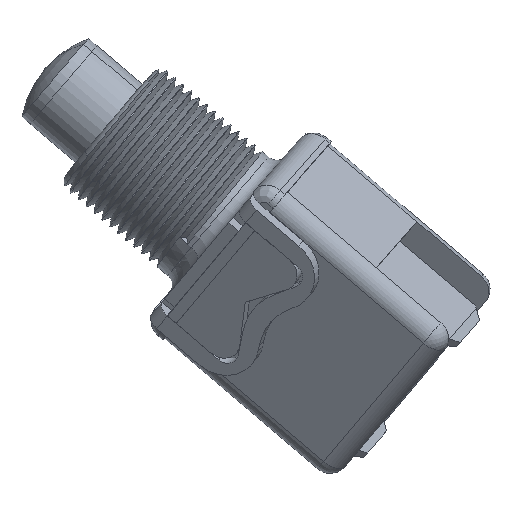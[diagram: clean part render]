
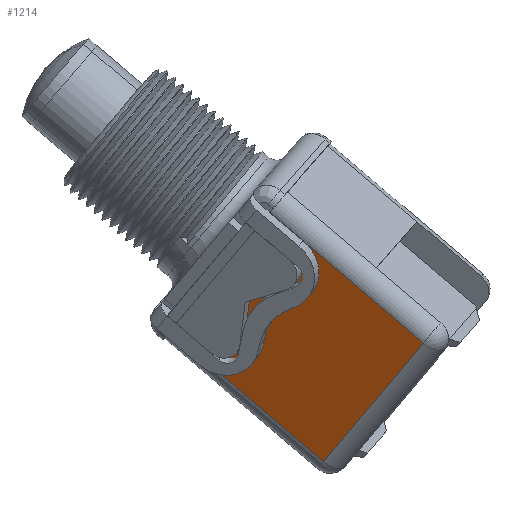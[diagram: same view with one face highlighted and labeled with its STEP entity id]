
A CAD part, top view. The second image highlights one B-rep face of the part: STEP entity #1214.
In plain terms, the highlighted planar face has unit normal (-0.346, -0.397, 0.85).
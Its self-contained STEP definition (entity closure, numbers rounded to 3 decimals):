
#355=DIRECTION('',(0.761,-0.648,0.007));
#356=VECTOR('',#355,15.5);
#357=CARTESIAN_POINT('',(-3.637,-10.102,
-1.162));
#358=LINE('',#357,#356);
#367=DIRECTION('',(0.548,0.65,0.527));
#368=VECTOR('',#367,1.5);
#369=CARTESIAN_POINT('',(-3.637,-10.102,
-1.162));
#370=LINE('',#369,#368);
#371=CARTESIAN_POINT('',(0.672,-10.421,
0.444));
#372=DIRECTION('',(-0.346,-0.397,0.85));
#373=DIRECTION('',(-0.548,-0.65,-0.527));
#374=AXIS2_PLACEMENT_3D('',#371,#372,#373);
#376=DIRECTION('',(0.111,0.882,0.457));
#377=VECTOR('',#376,3.742);
#378=CARTESIAN_POINT('',(2.07,-10.799,0.836));
#379=LINE('',#378,#377);
#380=DIRECTION('',(0.848,0.255,0.464));
#381=VECTOR('',#380,3.742);
#382=CARTESIAN_POINT('',(2.484,-7.498,2.547));
#383=LINE('',#382,#381);
#384=CARTESIAN_POINT('',(5.057,-5.223,4.657));
#385=DIRECTION('',(-0.346,-0.397,0.85));
#386=DIRECTION('',(0.401,-0.882,-0.249));
#387=AXIS2_PLACEMENT_3D('',#384,#385,#386);
#389=DIRECTION('',(-0.761,0.648,-0.007));
#390=VECTOR('',#389,3.5);
#391=CARTESIAN_POINT('',(5.879,-4.248,5.447));
#392=LINE('',#391,#390);
#393=DIRECTION('',(0.548,0.65,0.527));
#394=VECTOR('',#393,1.5);
#395=CARTESIAN_POINT('',(3.214,-1.979,5.422));
#396=LINE('',#395,#394);
#397=DIRECTION('',(-0.761,0.648,-0.007));
#398=VECTOR('',#397,3.5);
#399=CARTESIAN_POINT('',(-0.15,-11.395,
-0.346));
#400=LINE('',#399,#398);
#455=DIRECTION('',(-0.761,0.648,-0.007));
#456=VECTOR('',#455,15.5);
#457=CARTESIAN_POINT('',(15.839,-11.051,6.323));
#458=LINE('',#457,#456);
#473=DIRECTION('',(0.548,0.65,0.527));
#474=VECTOR('',#473,14.);
#475=CARTESIAN_POINT('',(8.166,-20.148,-1.05));
#476=LINE('',#475,#474);
#587=CARTESIAN_POINT('',(4.036,-1.005,6.212));
#588=VERTEX_POINT('',#587);
#589=CARTESIAN_POINT('',(3.214,-1.979,5.422));
#590=VERTEX_POINT('',#589);
#595=CARTESIAN_POINT('',(-2.815,-9.127,
-0.372));
#596=VERTEX_POINT('',#595);
#597=CARTESIAN_POINT('',(-3.637,-10.102,
-1.162));
#598=VERTEX_POINT('',#597);
#691=CARTESIAN_POINT('',(8.166,-20.148,-1.05));
#692=VERTEX_POINT('',#691);
#693=CARTESIAN_POINT('',(-0.15,-11.395,
-0.346));
#694=VERTEX_POINT('',#693);
#695=CARTESIAN_POINT('',(2.07,-10.799,0.836));
#696=VERTEX_POINT('',#695);
#697=CARTESIAN_POINT('',(2.484,-7.498,2.547));
#698=VERTEX_POINT('',#697);
#699=CARTESIAN_POINT('',(5.658,-6.545,4.284));
#700=VERTEX_POINT('',#699);
#701=CARTESIAN_POINT('',(5.879,-4.248,5.447));
#702=VERTEX_POINT('',#701);
#703=CARTESIAN_POINT('',(15.839,-11.051,6.323));
#704=VERTEX_POINT('',#703);
#1188=CARTESIAN_POINT('',(0.2,-5.553,
2.525));
#1189=DIRECTION('',(-0.346,-0.397,0.85));
#1190=DIRECTION('',(0.548,0.65,0.527));
#1191=AXIS2_PLACEMENT_3D('',#1188,#1189,#1190);
#1192=PLANE('',#1191);
#1193=ORIENTED_EDGE('',*,*,#1179,.F.);
#1194=ORIENTED_EDGE('',*,*,#790,.T.);
#1196=ORIENTED_EDGE('',*,*,#1195,.F.);
#1198=ORIENTED_EDGE('',*,*,#1197,.T.);
#1200=ORIENTED_EDGE('',*,*,#1199,.T.);
#1202=ORIENTED_EDGE('',*,*,#1201,.T.);
#1204=ORIENTED_EDGE('',*,*,#1203,.T.);
#1206=ORIENTED_EDGE('',*,*,#1205,.T.);
#1207=ORIENTED_EDGE('',*,*,#782,.T.);
#1209=ORIENTED_EDGE('',*,*,#1208,.F.);
#1211=ORIENTED_EDGE('',*,*,#1210,.F.);
#1212=EDGE_LOOP('',(#1193,#1194,#1196,#1198,#1200,#1202,#1204,#1206,#1207,#1209,
#1211));
#1213=FACE_OUTER_BOUND('',#1212,.F.);
#1214=ADVANCED_FACE('',(#1213),#1192,.T.);
#375=CIRCLE('',#374,1.5);
#388=CIRCLE('',#387,1.5);
#782=EDGE_CURVE('',#590,#588,#396,.T.);
#790=EDGE_CURVE('',#598,#596,#370,.T.);
#1179=EDGE_CURVE('',#598,#692,#358,.T.);
#1195=EDGE_CURVE('',#694,#596,#400,.T.);
#1197=EDGE_CURVE('',#694,#696,#375,.T.);
#1199=EDGE_CURVE('',#696,#698,#379,.T.);
#1201=EDGE_CURVE('',#698,#700,#383,.T.);
#1203=EDGE_CURVE('',#700,#702,#388,.T.);
#1205=EDGE_CURVE('',#702,#590,#392,.T.);
#1208=EDGE_CURVE('',#704,#588,#458,.T.);
#1210=EDGE_CURVE('',#692,#704,#476,.T.);
